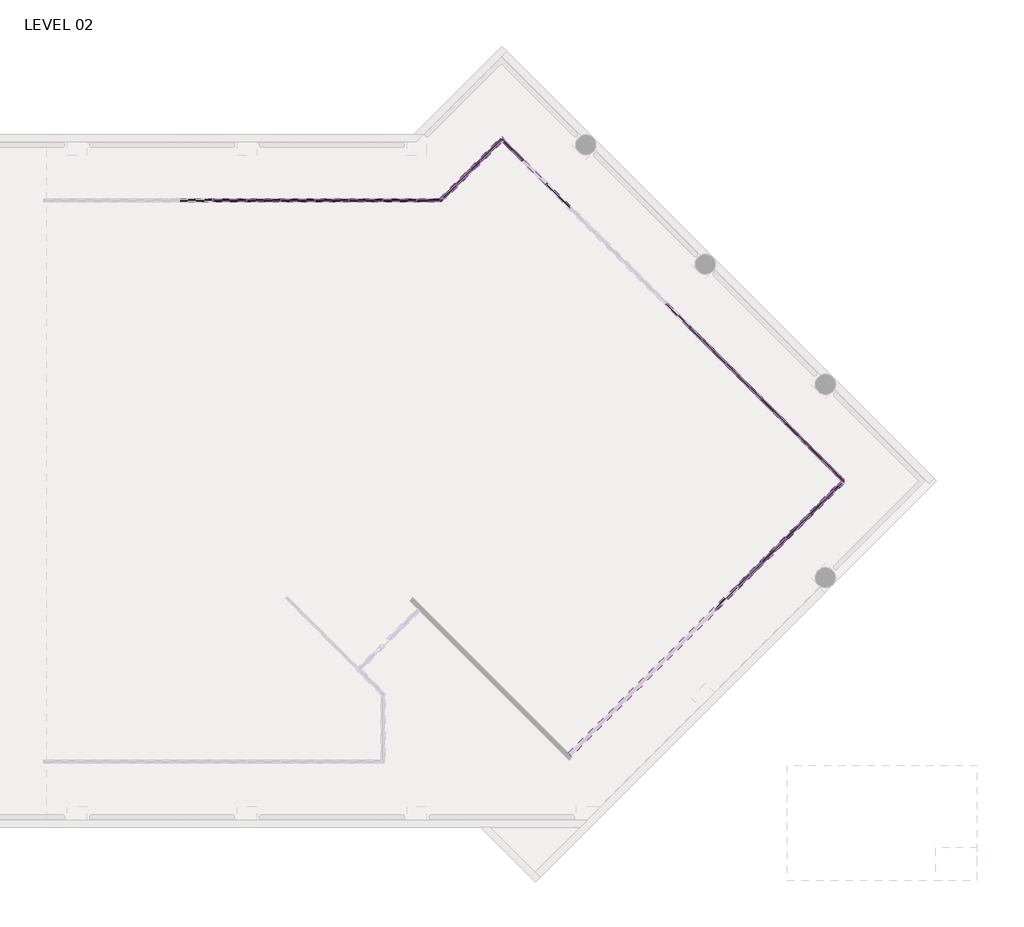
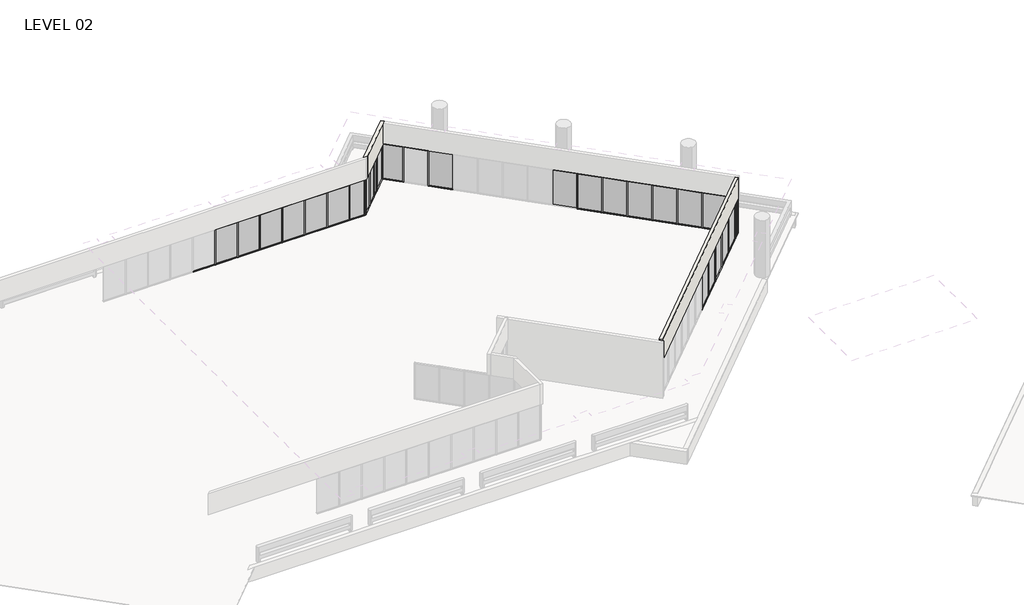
# One storey, part 15 of 19: 83 members, 27 plates, 2 walls.
"""IFC4 building model written with IfcOpenShell, lengths in millimetres."""

from ifc_helpers import new_model, si_unit, frame, origin, place, context, project, spatial, polyline, outline, extrude, faceted_brep, transform, mapped, element, save
from components import member_5247f267, member_ed5eb8ce, member_b8d22739, member_e44af9ab, member_800970d4, member_6d95746d, member_c23f844a, member_191f7a6c, member_e56bd8eb, member_e779ecf1, member_129419c3, plate_ce959b8d, plate_67294edd, plate_4e8ae714, plate_028de0fc, plate_c15461e5, plate_e2551f41, plate_50b9cd61, plate_048e4634, plate_aaac5d3d, plate_33a48981, plate_85447239

model = new_model("IFC4")

# Units and contexts
model_context = context("Model", 3, world=origin())
ifc_project = project(units=[si_unit("LENGTHUNIT", "METRE", prefix="MILLI")], contexts=[model_context])

# Site, building, storey
site = spatial("IfcSite", under=ifc_project)
building = spatial("IfcBuilding", under=site)
storey = spatial("IfcBuildingStorey", under=building, Name="LEVEL 02", Elevation=4140.2)

# Members
placement = place(None, origin())
member_shape = member_5247f267(model_context)
element("IfcMember", 1, ObjectType="Rectangular Mullion : 2\" x 4.5\" rectangular", at=placement, inside=storey, context=model_context, shape_type="MappedRepresentation", body=[
    mapped(member_shape, transform((41230.55, 117137.1023049, 4140.2), x_axis=(0.0, 0.0, -1.0), y_axis=(0.0, 1.0, 0.0), z_axis=(1.0, 0.0, 0.0))),
])
element("IfcMember", 2, ObjectType="Rectangular Mullion : 2\" x 4.5\" rectangular", at=placement, inside=storey, context=model_context, shape_type="MappedRepresentation", body=[
    mapped(member_shape, transform((39706.55, 117137.1023049, 4140.2), x_axis=(0.0, 0.0, -1.0), y_axis=(0.0, 1.0, 0.0), z_axis=(1.0, 0.0, 0.0))),
])
element("IfcMember", 3, ObjectType="Rectangular Mullion : 2\" x 4.5\" rectangular", at=placement, inside=storey, context=model_context, shape_type="MappedRepresentation", body=[
    mapped(member_shape, transform((35134.55, 117137.1023049, 4140.2), x_axis=(0.0, 0.0, -1.0), y_axis=(0.0, 1.0, 0.0), z_axis=(1.0, 0.0, 0.0))),
])
element("IfcMember", 4, ObjectType="Rectangular Mullion : 2\" x 4.5\" rectangular", at=placement, inside=storey, context=model_context, shape_type="MappedRepresentation", body=[
    mapped(member_shape, transform((33610.55, 117137.1023049, 4140.2), x_axis=(0.0, 0.0, -1.0), y_axis=(0.0, 1.0, 0.0), z_axis=(1.0, 0.0, 0.0))),
])
element("IfcMember", 5, ObjectType="Rectangular Mullion : 2\" x 4.5\" rectangular", at=placement, inside=storey, context=model_context, shape_type="MappedRepresentation", body=[
    mapped(member_shape, transform((59957.2287081, 104101.0755104, 4140.2), x_axis=(0.0, 0.0, -1.0), y_axis=(-0.7071067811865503, 0.7071067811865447, 0.0), z_axis=(0.7071067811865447, 0.7071067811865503, 0.0))),
])
element("IfcMember", 6, ObjectType="Rectangular Mullion : 2\" x 4.5\" rectangular", at=placement, inside=storey, context=model_context, shape_type="MappedRepresentation", body=[
    mapped(member_shape, transform((58879.5979736, 103023.4447759, 4140.2), x_axis=(0.0, 0.0, -1.0), y_axis=(-0.7071067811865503, 0.7071067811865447, 0.0), z_axis=(0.7071067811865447, 0.7071067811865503, 0.0))),
])
element("IfcMember", 7, ObjectType="Rectangular Mullion : 2\" x 4.5\" rectangular", at=placement, inside=storey, context=model_context, shape_type="MappedRepresentation", body=[
    mapped(member_shape, transform((55646.7353735, 99790.5821758, 4140.2), x_axis=(0.0, 0.0, -1.0), y_axis=(-0.7071067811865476, 0.7071067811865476, 0.0), z_axis=(0.7071067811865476, 0.7071067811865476, 0.0))),
])
element("IfcMember", 8, ObjectType="Rectangular Mullion : 2\" x 4.5\" rectangular", at=placement, inside=storey, context=model_context, shape_type="MappedRepresentation", body=[
    mapped(member_shape, transform((57837.8882635, 107102.019544, 4140.2), x_axis=(0.0, 0.0, -1.0), y_axis=(-0.7071067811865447, -0.7071067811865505, 0.0), z_axis=(-0.7071067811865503, 0.7071067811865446, 0.0))),
])
element("IfcMember", 9, ObjectType="Rectangular Mullion : 2\" x 4.5\" rectangular", at=placement, inside=storey, context=model_context, shape_type="MappedRepresentation", body=[
    mapped(member_shape, transform((38182.55, 117137.1023049, 4140.2), x_axis=(0.0, 0.0, -1.0), y_axis=(0.0, 1.0, 0.0), z_axis=(1.0, 0.0, 0.0))),
])
element("IfcMember", 10, ObjectType="Rectangular Mullion : 2\" x 4.5\" rectangular", at=placement, inside=storey, context=model_context, shape_type="MappedRepresentation", body=[
    mapped(member_shape, transform((36658.55, 117137.1023049, 4140.2), x_axis=(0.0, 0.0, -1.0), y_axis=(0.0, 1.0, 0.0), z_axis=(1.0, 0.0, 0.0))),
])
element("IfcMember", 11, ObjectType="Rectangular Mullion : 2\" x 4.5\" rectangular", at=placement, inside=storey, context=model_context, shape_type="MappedRepresentation", body=[
    mapped(member_shape, transform((32086.55, 117137.1023049, 4140.2), x_axis=(0.0, 0.0, -1.0), y_axis=(0.0, 1.0, 0.0), z_axis=(1.0, 0.0, 0.0))),
])
element("IfcMember", 12, ObjectType="Rectangular Mullion : 2\" x 4.5\" rectangular", at=placement, inside=storey, context=model_context, shape_type="MappedRepresentation", body=[
    mapped(member_shape, transform((56760.2932635, 108179.614544, 4140.2), x_axis=(0.0, 0.0, -1.0), y_axis=(-0.7071067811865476, -0.7071067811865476, 0.0), z_axis=(-0.7071067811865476, 0.7071067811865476, 0.0))),
])
element("IfcMember", 13, ObjectType="Rectangular Mullion : 2\" x 4.5\" rectangular", at=placement, inside=storey, context=model_context, shape_type="MappedRepresentation", body=[
    mapped(member_shape, transform((55682.6982635, 109257.209544, 4140.2), x_axis=(0.0, 0.0, -1.0), y_axis=(-0.7071067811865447, -0.7071067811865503, 0.0), z_axis=(-0.7071067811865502, 0.7071067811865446, 0.0))),
])
element("IfcMember", 14, ObjectType="Rectangular Mullion : 2\" x 4.5\" rectangular", at=placement, inside=storey, context=model_context, shape_type="MappedRepresentation", body=[
    mapped(member_shape, transform((54605.1032635, 110334.804544, 4140.2), x_axis=(0.0, 0.0, -1.0), y_axis=(-0.7071067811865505, -0.7071067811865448, 0.0), z_axis=(-0.7071067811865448, 0.7071067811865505, 0.0))),
])
element("IfcMember", 15, ObjectType="Rectangular Mullion : 2\" x 4.5\" rectangular", at=placement, inside=storey, context=model_context, shape_type="MappedRepresentation", body=[
    mapped(member_shape, transform((53527.5082635, 111412.399544, 4140.2), x_axis=(0.0, 0.0, -1.0), y_axis=(-0.7071067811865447, -0.7071067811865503, 0.0), z_axis=(-0.7071067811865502, 0.7071067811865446, 0.0))),
])
element("IfcMember", 16, ObjectType="Rectangular Mullion : 2\" x 4.5\" rectangular", at=placement, inside=storey, context=model_context, shape_type="MappedRepresentation", body=[
    mapped(member_shape, transform((58915.5189981, 106024.3888095, 4140.2), x_axis=(0.0, 0.0, -1.0), y_axis=(-0.7071067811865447, -0.7071067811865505, 0.0), z_axis=(-0.7071067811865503, 0.7071067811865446, 0.0))),
])
element("IfcMember", 17, ObjectType="Rectangular Mullion : 2\" x 4.5\" rectangular", at=placement, inside=storey, context=model_context, shape_type="MappedRepresentation", body=[
    mapped(member_shape, transform((57801.9672391, 101945.8140414, 4140.2), x_axis=(0.0, 0.0, -1.0), y_axis=(-0.7071067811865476, 0.7071067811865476, 0.0), z_axis=(0.7071067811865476, 0.7071067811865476, 0.0))),
])
element("IfcMember", 18, ObjectType="Rectangular Mullion : 2\" x 4.5\" rectangular", at=placement, inside=storey, context=model_context, shape_type="MappedRepresentation", body=[
    mapped(member_shape, transform((56724.3513063, 100868.1981086, 4140.2), x_axis=(0.0, 0.0, -1.0), y_axis=(-0.7071067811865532, 0.7071067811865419, 0.0), z_axis=(0.7071067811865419, 0.7071067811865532, 0.0))),
])
element("IfcMember", 19, ObjectType="Rectangular Mullion : 2\" x 4.5\" rectangular", at=placement, inside=storey, context=model_context, shape_type="MappedRepresentation", body=[
    mapped(member_shape, transform((39757.35, 117137.1023049, 6731.0), x_axis=(0.0, 0.0, 1.0), y_axis=(0.0, 1.0, 0.0), z_axis=(-1.0, 0.0, 0.0))),
])
element("IfcMember", 20, ObjectType="Rectangular Mullion : 2\" x 4.5\" rectangular", at=placement, inside=storey, context=model_context, shape_type="MappedRepresentation", body=[
    mapped(member_shape, transform((35185.35, 117137.1023049, 6731.0), x_axis=(0.0, 0.0, 1.0), y_axis=(0.0, 1.0, 0.0), z_axis=(-1.0, 0.0, 0.0))),
])
element("IfcMember", 21, ObjectType="Rectangular Mullion : 2\" x 4.5\" rectangular", at=placement, inside=storey, context=model_context, shape_type="MappedRepresentation", body=[
    mapped(member_shape, transform((33661.35, 117137.1023049, 6731.0), x_axis=(0.0, 0.0, 1.0), y_axis=(0.0, 1.0, 0.0), z_axis=(-1.0, 0.0, 0.0))),
])
element("IfcMember", 22, ObjectType="Rectangular Mullion : 2\" x 4.5\" rectangular", at=placement, inside=storey, context=model_context, shape_type="MappedRepresentation", body=[
    mapped(member_shape, transform((47055.7751901, 117884.1326174, 6731.0), x_axis=(0.0, 0.0, 1.0), y_axis=(-0.7071067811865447, -0.7071067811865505, 0.0), z_axis=(0.7071067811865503, -0.7071067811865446, 0.0))),
])
element("IfcMember", 23, ObjectType="Rectangular Mullion : 2\" x 4.5\" rectangular", at=placement, inside=storey, context=model_context, shape_type="MappedRepresentation", body=[
    mapped(member_shape, transform((58915.5189981, 103059.3658004, 6731.0), x_axis=(0.0, 0.0, 1.0), y_axis=(-0.7071067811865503, 0.7071067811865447, 0.0), z_axis=(-0.7071067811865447, -0.7071067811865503, 0.0))),
])
element("IfcMember", 24, ObjectType="Rectangular Mullion : 2\" x 4.5\" rectangular", at=placement, inside=storey, context=model_context, shape_type="MappedRepresentation", body=[
    mapped(member_shape, transform((55682.6563979, 99826.5032003, 6731.0), x_axis=(0.0, 0.0, 1.0), y_axis=(-0.7071067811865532, 0.7071067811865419, 0.0), z_axis=(-0.7071067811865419, -0.7071067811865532, 0.0))),
])
element("IfcMember", 25, ObjectType="Rectangular Mullion : 2\" x 4.5\" rectangular", at=placement, inside=storey, context=model_context, shape_type="MappedRepresentation", body=[
    mapped(member_shape, transform((57801.9672391, 107137.9405685, 6731.0), x_axis=(0.0, 0.0, 1.0), y_axis=(-0.7071067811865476, -0.7071067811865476, 0.0), z_axis=(0.7071067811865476, -0.7071067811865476, 0.0))),
])
element("IfcMember", 26, ObjectType="Rectangular Mullion : 2\" x 4.5\" rectangular", at=placement, inside=storey, context=model_context, shape_type="MappedRepresentation", body=[
    mapped(member_shape, transform((38233.35, 117137.1023049, 6731.0), x_axis=(0.0, 0.0, 1.0), y_axis=(0.0, 1.0, 0.0), z_axis=(-1.0, 0.0, 0.0))),
])
element("IfcMember", 27, ObjectType="Rectangular Mullion : 2\" x 4.5\" rectangular", at=placement, inside=storey, context=model_context, shape_type="MappedRepresentation", body=[
    mapped(member_shape, transform((36709.35, 117137.1023049, 6731.0), x_axis=(0.0, 0.0, 1.0), y_axis=(0.0, 1.0, 0.0), z_axis=(-1.0, 0.0, 0.0))),
])
element("IfcMember", 28, ObjectType="Rectangular Mullion : 2\" x 4.5\" rectangular", at=placement, inside=storey, context=model_context, shape_type="MappedRepresentation", body=[
    mapped(member_shape, transform((32137.35, 117137.1023049, 6731.0), x_axis=(0.0, 0.0, 1.0), y_axis=(0.0, 1.0, 0.0), z_axis=(-1.0, 0.0, 0.0))),
])
element("IfcMember", 29, ObjectType="Rectangular Mullion : 2\" x 4.5\" rectangular", at=placement, inside=storey, context=model_context, shape_type="MappedRepresentation", body=[
    mapped(member_shape, transform((56724.3722391, 108215.5355685, 6731.0), x_axis=(0.0, 0.0, 1.0), y_axis=(-0.7071067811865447, -0.7071067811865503, 0.0), z_axis=(0.7071067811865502, -0.7071067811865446, 0.0))),
])
element("IfcMember", 30, ObjectType="Rectangular Mullion : 2\" x 4.5\" rectangular", at=placement, inside=storey, context=model_context, shape_type="MappedRepresentation", body=[
    mapped(member_shape, transform((55646.7772391, 109293.1305685, 6731.0), x_axis=(0.0, 0.0, 1.0), y_axis=(-0.7071067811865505, -0.7071067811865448, 0.0), z_axis=(0.7071067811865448, -0.7071067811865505, 0.0))),
])
element("IfcMember", 31, ObjectType="Rectangular Mullion : 2\" x 4.5\" rectangular", at=placement, inside=storey, context=model_context, shape_type="MappedRepresentation", body=[
    mapped(member_shape, transform((54569.1822391, 110370.7255685, 6731.0), x_axis=(0.0, 0.0, 1.0), y_axis=(-0.7071067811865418, -0.7071067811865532, 0.0), z_axis=(0.7071067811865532, -0.7071067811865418, 0.0))),
])
element("IfcMember", 32, ObjectType="Rectangular Mullion : 2\" x 4.5\" rectangular", at=placement, inside=storey, context=model_context, shape_type="MappedRepresentation", body=[
    mapped(member_shape, transform((53491.5872391, 111448.3205685, 6731.0), x_axis=(0.0, 0.0, 1.0), y_axis=(-0.7071067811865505, -0.7071067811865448, 0.0), z_axis=(0.7071067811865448, -0.7071067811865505, 0.0))),
])
element("IfcMember", 33, ObjectType="Rectangular Mullion : 2\" x 4.5\" rectangular", at=placement, inside=storey, context=model_context, shape_type="MappedRepresentation", body=[
    mapped(member_shape, transform((58879.5979736, 106060.3098339, 6731.0), x_axis=(0.0, 0.0, 1.0), y_axis=(-0.7071067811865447, -0.7071067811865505, 0.0), z_axis=(0.7071067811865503, -0.7071067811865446, 0.0))),
])
element("IfcMember", 34, ObjectType="Rectangular Mullion : 2\" x 4.5\" rectangular", at=placement, inside=storey, context=model_context, shape_type="MappedRepresentation", body=[
    mapped(member_shape, transform((59957.2287081, 104982.6790994, 6731.0), x_axis=(0.0, 0.0, 1.0), y_axis=(-0.7071067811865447, -0.7071067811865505, 0.0), z_axis=(0.7071067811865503, -0.7071067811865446, 0.0))),
])
element("IfcMember", 35, ObjectType="Rectangular Mullion : 2\" x 4.5\" rectangular", at=placement, inside=storey, context=model_context, shape_type="MappedRepresentation", body=[
    mapped(member_shape, transform((57837.8882635, 101981.7350659, 6731.0), x_axis=(0.0, 0.0, 1.0), y_axis=(-0.7071067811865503, 0.7071067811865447, 0.0), z_axis=(-0.7071067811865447, -0.7071067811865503, 0.0))),
])
element("IfcMember", 36, ObjectType="Rectangular Mullion : 2\" x 4.5\" rectangular", at=placement, inside=storey, context=model_context, shape_type="MappedRepresentation", body=[
    mapped(member_shape, transform((56760.2723307, 100904.1191331, 6731.0), x_axis=(0.0, 0.0, 1.0), y_axis=(-0.7071067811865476, 0.7071067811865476, 0.0), z_axis=(-0.7071067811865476, -0.7071067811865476, 0.0))),
])
member_2_shape = member_ed5eb8ce(model_context)
element("IfcMember", 37, ObjectType="Rectangular Mullion : 2\" x 4.5\" rectangular", at=placement, inside=storey, context=model_context, shape_type="MappedRepresentation", body=[
    mapped(member_2_shape, transform((41281.35, 117137.1023049, 6731.0), x_axis=(0.0, 0.0, 1.0), y_axis=(0.0, 1.0, 0.0), z_axis=(-1.0, 0.0, 0.0))),
])
element("IfcMember", 38, ObjectType="Rectangular Mullion : 2\" x 4.5\" rectangular", at=placement, inside=storey, context=model_context, shape_type="MappedRepresentation", body=[
    mapped(member_2_shape, transform((42278.2944974, 117137.1023049, 4140.2), x_axis=(0.0, 0.0, -1.0), y_axis=(0.0, 1.0, 0.0), z_axis=(1.0, 0.0, 0.0))),
])
member_3_shape = member_b8d22739(model_context)
element("IfcMember", 39, ObjectType="Rectangular Mullion : 2\" x 4.5\" rectangular", at=placement, inside=storey, context=model_context, shape_type="MappedRepresentation", body=[
    mapped(member_3_shape, transform((60362.1094781, 104505.9562804, 4140.2), x_axis=(0.0, 0.0, -1.0), y_axis=(-0.7071067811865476, 0.7071067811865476, 0.0), z_axis=(0.7071067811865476, 0.7071067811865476, 0.0))),
])
element("IfcMember", 40, ObjectType="Rectangular Mullion : 2\" x 4.5\" rectangular", at=placement, inside=storey, context=model_context, shape_type="MappedRepresentation", body=[
    mapped(member_3_shape, transform((59993.1497326, 104946.7580749, 4140.2), x_axis=(0.0, 0.0, -1.0), y_axis=(-0.7071067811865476, -0.7071067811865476, 0.0), z_axis=(-0.7071067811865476, 0.7071067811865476, 0.0))),
])
element("IfcMember", 41, ObjectType="Rectangular Mullion : 2\" x 4.5\" rectangular", at=placement, inside=storey, context=model_context, shape_type="MappedRepresentation", body=[
    mapped(member_3_shape, transform((60362.1094781, 104577.7983294, 6731.0), x_axis=(0.0, 0.0, 1.0), y_axis=(-0.7071067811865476, -0.7071067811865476, 0.0), z_axis=(0.7071067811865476, -0.7071067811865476, 0.0))),
])
element("IfcMember", 42, ObjectType="Rectangular Mullion : 2\" x 4.5\" rectangular", at=placement, inside=storey, context=model_context, shape_type="MappedRepresentation", body=[
    mapped(member_3_shape, transform((59993.1497326, 104136.9965349, 6731.0), x_axis=(0.0, 0.0, 1.0), y_axis=(-0.7071067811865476, 0.7071067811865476, 0.0), z_axis=(-0.7071067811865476, -0.7071067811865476, 0.0))),
])
member_4_shape = member_e44af9ab(model_context)
element("IfcMember", 43, ObjectType="Rectangular Mullion : 2\" x 4.5\" rectangular", at=placement, inside=storey, context=model_context, shape_type="MappedRepresentation", body=[
    mapped(member_4_shape, transform((41255.95, 117137.1023049, 4140.2), x_axis=(-1.0, 0.0, 0.0), y_axis=(0.0, 1.0, 0.0), z_axis=(0.0, 0.0, -1.0))),
])
element("IfcMember", 44, ObjectType="Rectangular Mullion : 2\" x 4.5\" rectangular", at=placement, inside=storey, context=model_context, shape_type="MappedRepresentation", body=[
    mapped(member_4_shape, transform((39731.95, 117137.1023049, 4140.2), x_axis=(-1.0, 0.0, 0.0), y_axis=(0.0, 1.0, 0.0), z_axis=(0.0, 0.0, -1.0))),
])
element("IfcMember", 45, ObjectType="Rectangular Mullion : 2\" x 4.5\" rectangular", at=placement, inside=storey, context=model_context, shape_type="MappedRepresentation", body=[
    mapped(member_4_shape, transform((35159.95, 117137.1023049, 4140.2), x_axis=(-1.0, 0.0, 0.0), y_axis=(0.0, 1.0, 0.0), z_axis=(0.0, 0.0, -1.0))),
])
element("IfcMember", 46, ObjectType="Rectangular Mullion : 2\" x 4.5\" rectangular", at=placement, inside=storey, context=model_context, shape_type="MappedRepresentation", body=[
    mapped(member_4_shape, transform((43037.1222487, 117845.1300562, 4140.2), x_axis=(0.7071067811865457, 0.7071067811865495, 0.0), y_axis=(0.7071067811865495, -0.7071067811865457, 0.0), z_axis=(0.0, 0.0, -1.0))),
])
element("IfcMember", 47, ObjectType="Rectangular Mullion : 2\" x 4.5\" rectangular", at=placement, inside=storey, context=model_context, shape_type="MappedRepresentation", body=[
    mapped(member_4_shape, transform((33635.95, 117137.1023049, 4140.2), x_axis=(-1.0, 0.0, 0.0), y_axis=(0.0, 1.0, 0.0), z_axis=(0.0, 0.0, -1.0))),
])
element("IfcMember", 48, ObjectType="Rectangular Mullion : 2\" x 4.5\" rectangular", at=placement, inside=storey, context=model_context, shape_type="MappedRepresentation", body=[
    mapped(member_4_shape, transform((45996.1049678, 118943.8028397, 4140.2), x_axis=(0.7071067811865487, -0.7071067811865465, 0.0), y_axis=(-0.7071067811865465, -0.7071067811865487, 0.0), z_axis=(0.0, 0.0, -1.0))),
])
element("IfcMember", 49, ObjectType="Rectangular Mullion : 2\" x 4.5\" rectangular", at=placement, inside=storey, context=model_context, shape_type="MappedRepresentation", body=[
    mapped(member_4_shape, transform((47073.7357023, 117866.1721052, 4140.2), x_axis=(0.7071067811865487, -0.7071067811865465, 0.0), y_axis=(-0.7071067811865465, -0.7071067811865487, 0.0), z_axis=(0.0, 0.0, -1.0))),
])
element("IfcMember", 50, ObjectType="Rectangular Mullion : 2\" x 4.5\" rectangular", at=placement, inside=storey, context=model_context, shape_type="MappedRepresentation", body=[
    mapped(member_4_shape, transform((59975.1892204, 104119.0360227, 4140.2), x_axis=(-0.7071067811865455, -0.7071067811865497, 0.0), y_axis=(-0.7071067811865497, 0.7071067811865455, 0.0), z_axis=(0.0, 0.0, -1.0))),
])
element("IfcMember", 51, ObjectType="Rectangular Mullion : 2\" x 4.5\" rectangular", at=placement, inside=storey, context=model_context, shape_type="MappedRepresentation", body=[
    mapped(member_4_shape, transform((58897.5584858, 103041.4052881, 4140.2), x_axis=(-0.7071067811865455, -0.7071067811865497, 0.0), y_axis=(-0.7071067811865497, 0.7071067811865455, 0.0), z_axis=(0.0, 0.0, -1.0))),
])
element("IfcMember", 52, ObjectType="Rectangular Mullion : 2\" x 4.5\" rectangular", at=placement, inside=storey, context=model_context, shape_type="MappedRepresentation", body=[
    mapped(member_4_shape, transform((55664.6958857, 99808.542688, 4140.2), x_axis=(-0.7071067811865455, -0.7071067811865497, 0.0), y_axis=(-0.7071067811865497, 0.7071067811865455, 0.0), z_axis=(0.0, 0.0, -1.0))),
])
element("IfcMember", 53, ObjectType="Rectangular Mullion : 2\" x 4.5\" rectangular", at=placement, inside=storey, context=model_context, shape_type="MappedRepresentation", body=[
    mapped(member_4_shape, transform((57819.9277513, 107119.9800562, 4140.2), x_axis=(0.7071067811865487, -0.7071067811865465, 0.0), y_axis=(-0.7071067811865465, -0.7071067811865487, 0.0), z_axis=(0.0, 0.0, -1.0))),
])
element("IfcMember", 54, ObjectType="Rectangular Mullion : 2\" x 4.5\" rectangular", at=placement, inside=storey, context=model_context, shape_type="MappedRepresentation", body=[
    mapped(member_4_shape, transform((44114.7529832, 118922.7607908, 4140.2), x_axis=(0.7071067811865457, 0.7071067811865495, 0.0), y_axis=(0.7071067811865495, -0.7071067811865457, 0.0), z_axis=(0.0, 0.0, -1.0))),
])
element("IfcMember", 55, ObjectType="Rectangular Mullion : 2\" x 4.5\" rectangular", at=placement, inside=storey, context=model_context, shape_type="MappedRepresentation", body=[
    mapped(member_4_shape, transform((38207.95, 117137.1023049, 4140.2), x_axis=(-1.0, 0.0, 0.0), y_axis=(0.0, 1.0, 0.0), z_axis=(0.0, 0.0, -1.0))),
])
element("IfcMember", 56, ObjectType="Rectangular Mullion : 2\" x 4.5\" rectangular", at=placement, inside=storey, context=model_context, shape_type="MappedRepresentation", body=[
    mapped(member_4_shape, transform((36683.95, 117137.1023049, 4140.2), x_axis=(-1.0, 0.0, 0.0), y_axis=(0.0, 1.0, 0.0), z_axis=(0.0, 0.0, -1.0))),
])
element("IfcMember", 57, ObjectType="Rectangular Mullion : 2\" x 4.5\" rectangular", at=placement, inside=storey, context=model_context, shape_type="MappedRepresentation", body=[
    mapped(member_4_shape, transform((32111.95, 117137.1023049, 4140.2), x_axis=(-1.0, 0.0, 0.0), y_axis=(0.0, 1.0, 0.0), z_axis=(0.0, 0.0, -1.0))),
])
element("IfcMember", 58, ObjectType="Rectangular Mullion : 2\" x 4.5\" rectangular", at=placement, inside=storey, context=model_context, shape_type="MappedRepresentation", body=[
    mapped(member_4_shape, transform((56742.3327513, 108197.5750562, 4140.2), x_axis=(0.7071067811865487, -0.7071067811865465, 0.0), y_axis=(-0.7071067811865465, -0.7071067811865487, 0.0), z_axis=(0.0, 0.0, -1.0))),
])
element("IfcMember", 59, ObjectType="Rectangular Mullion : 2\" x 4.5\" rectangular", at=placement, inside=storey, context=model_context, shape_type="MappedRepresentation", body=[
    mapped(member_4_shape, transform((55664.7377513, 109275.1700562, 4140.2), x_axis=(0.7071067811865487, -0.7071067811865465, 0.0), y_axis=(-0.7071067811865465, -0.7071067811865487, 0.0), z_axis=(0.0, 0.0, -1.0))),
])
element("IfcMember", 60, ObjectType="Rectangular Mullion : 2\" x 4.5\" rectangular", at=placement, inside=storey, context=model_context, shape_type="MappedRepresentation", body=[
    mapped(member_4_shape, transform((54587.1427513, 110352.7650562, 4140.2), x_axis=(0.7071067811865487, -0.7071067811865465, 0.0), y_axis=(-0.7071067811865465, -0.7071067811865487, 0.0), z_axis=(0.0, 0.0, -1.0))),
])
element("IfcMember", 61, ObjectType="Rectangular Mullion : 2\" x 4.5\" rectangular", at=placement, inside=storey, context=model_context, shape_type="MappedRepresentation", body=[
    mapped(member_4_shape, transform((53509.5477513, 111430.3600562, 4140.2), x_axis=(0.7071067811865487, -0.7071067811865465, 0.0), y_axis=(-0.7071067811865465, -0.7071067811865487, 0.0), z_axis=(0.0, 0.0, -1.0))),
])
element("IfcMember", 62, ObjectType="Rectangular Mullion : 2\" x 4.5\" rectangular", at=placement, inside=storey, context=model_context, shape_type="MappedRepresentation", body=[
    mapped(member_4_shape, transform((58897.5584858, 106042.3493217, 4140.2), x_axis=(0.7071067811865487, -0.7071067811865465, 0.0), y_axis=(-0.7071067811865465, -0.7071067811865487, 0.0), z_axis=(0.0, 0.0, -1.0))),
])
element("IfcMember", 63, ObjectType="Rectangular Mullion : 2\" x 4.5\" rectangular", at=placement, inside=storey, context=model_context, shape_type="MappedRepresentation", body=[
    mapped(member_4_shape, transform((59975.1892204, 104964.7185872, 4140.2), x_axis=(0.7071067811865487, -0.7071067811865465, 0.0), y_axis=(-0.7071067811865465, -0.7071067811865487, 0.0), z_axis=(0.0, 0.0, -1.0))),
])
element("IfcMember", 64, ObjectType="Rectangular Mullion : 2\" x 4.5\" rectangular", at=placement, inside=storey, context=model_context, shape_type="MappedRepresentation", body=[
    mapped(member_4_shape, transform((57819.9277513, 101963.7745536, 4140.2), x_axis=(-0.7071067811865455, -0.7071067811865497, 0.0), y_axis=(-0.7071067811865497, 0.7071067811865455, 0.0), z_axis=(0.0, 0.0, -1.0))),
])
element("IfcMember", 65, ObjectType="Rectangular Mullion : 2\" x 4.5\" rectangular", at=placement, inside=storey, context=model_context, shape_type="MappedRepresentation", body=[
    mapped(member_4_shape, transform((56742.3118185, 100886.1586208, 4140.2), x_axis=(-0.7071067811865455, -0.7071067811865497, 0.0), y_axis=(-0.7071067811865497, 0.7071067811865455, 0.0), z_axis=(0.0, 0.0, -1.0))),
])
member_5_shape = member_800970d4(model_context)
element("IfcMember", 66, ObjectType="Rectangular Mullion : 2\" x 4.5\" rectangular", at=placement, inside=storey, context=model_context, shape_type="MappedRepresentation", body=[
    mapped(member_5_shape, transform((45065.95, 119873.9578075, 4140.2), x_axis=(0.7071067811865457, 0.7071067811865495, 0.0), y_axis=(0.7071067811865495, -0.7071067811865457, 0.0), z_axis=(0.0, 0.0, -1.0))),
])
element("IfcMember", 67, ObjectType="Rectangular Mullion : 2\" x 4.5\" rectangular", at=placement, inside=storey, context=model_context, shape_type="MappedRepresentation", body=[
    mapped(member_5_shape, transform((60398.0305026, 104541.8773049, 4140.2), x_axis=(0.7071067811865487, -0.7071067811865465, 0.0), y_axis=(-0.7071067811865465, -0.7071067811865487, 0.0), z_axis=(0.0, 0.0, -1.0))),
])
element("IfcMember", 68, ObjectType="Rectangular Mullion : 2\" x 4.5\" rectangular", at=placement, inside=storey, context=model_context, shape_type="MappedRepresentation", body=[
    mapped(member_5_shape, transform((42329.0944974, 117137.1023049, 6731.0), x_axis=(1.0, 0.0, 0.0), y_axis=(0.0, 1.0, 0.0), z_axis=(0.0, 0.0, 1.0))),
])
element("IfcMember", 69, ObjectType="Rectangular Mullion : 2\" x 4.5\" rectangular", at=placement, inside=storey, context=model_context, shape_type="MappedRepresentation", body=[
    mapped(member_5_shape, transform((42329.0944974, 117137.1023049, 6731.0), x_axis=(-0.7071067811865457, -0.7071067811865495, 0.0), y_axis=(0.7071067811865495, -0.7071067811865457, 0.0), z_axis=(0.0, 0.0, 1.0))),
])
element("IfcMember", 70, ObjectType="Rectangular Mullion : 2\" x 4.5\" rectangular", at=placement, inside=storey, context=model_context, shape_type="MappedRepresentation", body=[
    mapped(member_5_shape, transform((45065.95, 119873.9578075, 6731.0), x_axis=(-0.7071067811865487, 0.7071067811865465, 0.0), y_axis=(-0.7071067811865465, -0.7071067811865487, 0.0), z_axis=(0.0, 0.0, 1.0))),
])
element("IfcMember", 71, ObjectType="Rectangular Mullion : 2\" x 4.5\" rectangular", at=placement, inside=storey, context=model_context, shape_type="MappedRepresentation", body=[
    mapped(member_5_shape, transform((60398.0305026, 104541.8773049, 6731.0), x_axis=(0.7071067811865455, 0.7071067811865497, 0.0), y_axis=(-0.7071067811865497, 0.7071067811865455, 0.0), z_axis=(0.0, 0.0, 1.0))),
])
member_6_shape = member_6d95746d(model_context)
element("IfcMember", 72, ObjectType="Rectangular Mullion : 2\" x 4.5\" rectangular", at=placement, inside=storey, context=model_context, shape_type="MappedRepresentation", body=[
    mapped(member_6_shape, transform((45978.1444556, 118961.763352, 6731.0), x_axis=(0.0, 0.0, 1.0), y_axis=(-0.7071067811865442, -0.7071067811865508, 0.0), z_axis=(0.7071067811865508, -0.7071067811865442, 0.0))),
])
element("IfcMember", 73, ObjectType="Rectangular Mullion : 2\" x 4.5\" rectangular", at=placement, inside=storey, context=model_context, shape_type="MappedRepresentation", body=[
    mapped(member_6_shape, transform((45101.8710245, 119838.036783, 4140.2), x_axis=(0.0, 0.0, -1.0), y_axis=(-0.7071067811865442, -0.7071067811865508, 0.0), z_axis=(-0.7071067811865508, 0.7071067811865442, 0.0))),
])
member_7_shape = member_c23f844a(model_context)
element("IfcMember", 74, ObjectType="Rectangular Mullion : 2\" x 4.5\" rectangular", at=placement, inside=storey, context=model_context, shape_type="MappedRepresentation", body=[
    mapped(member_7_shape, transform((47091.6962146, 117848.211593, 4140.2), x_axis=(0.0, 0.0, -1.0), y_axis=(-0.7071067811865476, -0.7071067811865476, 0.0), z_axis=(-0.7071067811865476, 0.7071067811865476, 0.0))),
])
member_8_shape = member_191f7a6c(model_context)
element("IfcMember", 75, ObjectType="Rectangular Mullion : 2\" x 4.5\" rectangular", at=placement, inside=storey, context=model_context, shape_type="MappedRepresentation", body=[
    mapped(member_8_shape, transform((43019.1617365, 117827.169544, 6731.0), x_axis=(0.0, 0.0, 1.0), y_axis=(0.7071067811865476, -0.7071067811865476, 0.0), z_axis=(0.7071067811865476, 0.7071067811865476, 0.0))),
])
element("IfcMember", 76, ObjectType="Rectangular Mullion : 2\" x 4.5\" rectangular", at=placement, inside=storey, context=model_context, shape_type="MappedRepresentation", body=[
    mapped(member_8_shape, transform((42365.0155219, 117173.0233294, 4140.2), x_axis=(0.0, 0.0, -1.0), y_axis=(0.7071067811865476, -0.7071067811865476, 0.0), z_axis=(-0.7071067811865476, -0.7071067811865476, 0.0))),
])
member_9_shape = member_e56bd8eb(model_context)
element("IfcMember", 77, ObjectType="Rectangular Mullion : 2\" x 4.5\" rectangular", at=placement, inside=storey, context=model_context, shape_type="MappedRepresentation", body=[
    mapped(member_9_shape, transform((45030.0289755, 119838.036783, 6731.0), x_axis=(0.0, 0.0, 1.0), y_axis=(0.7071067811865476, -0.7071067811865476, 0.0), z_axis=(0.7071067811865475, 0.7071067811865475, 0.0))),
])
element("IfcMember", 78, ObjectType="Rectangular Mullion : 2\" x 4.5\" rectangular", at=placement, inside=storey, context=model_context, shape_type="MappedRepresentation", body=[
    mapped(member_9_shape, transform((44132.7134955, 118940.721303, 4140.2), x_axis=(0.0, 0.0, -1.0), y_axis=(0.7071067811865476, -0.7071067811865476, 0.0), z_axis=(-0.7071067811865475, -0.7071067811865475, 0.0))),
])
element("IfcMember", 79, ObjectType="Rectangular Mullion : 2\" x 4.5\" rectangular", at=placement, inside=storey, context=model_context, shape_type="MappedRepresentation", body=[
    mapped(member_4_shape, transform((43697.5222487, 118505.5300562, 4140.2), x_axis=(0.7071067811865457, 0.7071067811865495, 0.0), y_axis=(0.7071067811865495, -0.7071067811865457, 0.0), z_axis=(0.0, 0.0, -1.0))),
])
member_10_shape = member_e779ecf1(model_context)
element("IfcMember", 80, ObjectType="Rectangular Mullion : 2\" x 4.5\" rectangular", at=placement, inside=storey, context=model_context, shape_type="MappedRepresentation", body=[
    mapped(member_10_shape, transform((43055.0827609, 117863.0905685, 4140.2), x_axis=(0.0, 0.0, -1.0), y_axis=(0.7071067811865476, -0.7071067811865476, 0.0), z_axis=(-0.7071067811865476, -0.7071067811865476, 0.0))),
])
member_11_shape = member_129419c3(model_context)
element("IfcMember", 81, ObjectType="Rectangular Mullion : 2\" x 4.5\" rectangular", at=placement, inside=storey, context=model_context, shape_type="MappedRepresentation", body=[
    mapped(member_11_shape, transform((44096.792471, 118904.8002785, 6731.0), x_axis=(0.0, 0.0, 1.0), y_axis=(0.7071067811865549, -0.7071067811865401, 0.0), z_axis=(0.7071067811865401, 0.7071067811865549, 0.0))),
])
element("IfcMember", 82, ObjectType="Rectangular Mullion : 2\" x 4.5\" rectangular", at=placement, inside=storey, context=model_context, shape_type="MappedRepresentation", body=[
    mapped(member_11_shape, transform((43715.4827609, 118523.4905685, 4140.2), x_axis=(0.0, 0.0, -1.0), y_axis=(0.7071067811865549, -0.7071067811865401, 0.0), z_axis=(-0.7071067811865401, -0.7071067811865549, 0.0))),
])
element("IfcMember", 83, ObjectType="Rectangular Mullion : 2\" x 4.5\" rectangular", at=placement, inside=storey, context=model_context, shape_type="MappedRepresentation", body=[
    mapped(member_10_shape, transform((43679.5617365, 118487.569544, 6731.0), x_axis=(0.0, 0.0, 1.0), y_axis=(0.7071067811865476, -0.7071067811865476, 0.0), z_axis=(0.7071067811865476, 0.7071067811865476, 0.0))),
])

# Plates
plate_shape = plate_ce959b8d(model_context)
element("IfcPlate", 84, ObjectType="System Panel : 1/4\" Glass", at=placement, inside=storey, context=model_context, shape_type="MappedRepresentation", body=[
    mapped(plate_shape, transform((41779.8222487, 117137.1023049, 4191.0), x_axis=(-1.0, 0.0, 0.0), y_axis=(0.0, -1.0, 0.0), z_axis=(0.0, 0.0, 1.0))),
])
plate_2_shape = plate_67294edd(model_context)
element("IfcPlate", 85, ObjectType="System Panel : 1/4\" Glass", at=placement, inside=storey, context=model_context, shape_type="MappedRepresentation", body=[
    mapped(plate_2_shape, transform((40493.95, 117137.1023049, 4191.0), x_axis=(-1.0, 0.0, 0.0), y_axis=(0.0, -1.0, 0.0), z_axis=(0.0, 0.0, 1.0))),
])
element("IfcPlate", 86, ObjectType="System Panel : 1/4\" Glass", at=placement, inside=storey, context=model_context, shape_type="MappedRepresentation", body=[
    mapped(plate_2_shape, transform((38969.95, 117137.1023049, 4191.0), x_axis=(-1.0, 0.0, 0.0), y_axis=(0.0, -1.0, 0.0), z_axis=(0.0, 0.0, 1.0))),
])
element("IfcPlate", 87, ObjectType="System Panel : 1/4\" Glass", at=placement, inside=storey, context=model_context, shape_type="MappedRepresentation", body=[
    mapped(plate_2_shape, transform((34397.95, 117137.1023049, 4191.0), x_axis=(-1.0, 0.0, 0.0), y_axis=(0.0, -1.0, 0.0), z_axis=(0.0, 0.0, 1.0))),
])
element("IfcPlate", 88, ObjectType="System Panel : 1/4\" Glass", at=placement, inside=storey, context=model_context, shape_type="MappedRepresentation", body=[
    mapped(plate_2_shape, transform((32873.95, 117137.1023049, 4191.0), x_axis=(-1.0, 0.0, 0.0), y_axis=(0.0, -1.0, 0.0), z_axis=(0.0, 0.0, 1.0))),
])
element("IfcPlate", 89, ObjectType="System Panel : 1/4\" Glass", at=placement, inside=storey, context=model_context, shape_type="MappedRepresentation", body=[
    mapped(plate_2_shape, transform((59436.3738531, 103580.2206554, 4191.0), x_axis=(-0.7071067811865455, -0.7071067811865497, 0.0), y_axis=(0.7071067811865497, -0.7071067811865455, 0.0), z_axis=(0.0, 0.0, 1.0))),
])
element("IfcPlate", 90, ObjectType="System Panel : 1/4\" Glass", at=placement, inside=storey, context=model_context, shape_type="MappedRepresentation", body=[
    mapped(plate_2_shape, transform((58358.7431186, 102502.5899209, 4191.0), x_axis=(-0.7071067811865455, -0.7071067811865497, 0.0), y_axis=(0.7071067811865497, -0.7071067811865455, 0.0), z_axis=(0.0, 0.0, 1.0))),
])
element("IfcPlate", 91, ObjectType="System Panel : 1/4\" Glass", at=placement, inside=storey, context=model_context, shape_type="MappedRepresentation", body=[
    mapped(plate_2_shape, transform((58358.7431186, 106581.164689, 4191.0), x_axis=(0.7071067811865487, -0.7071067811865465, 0.0), y_axis=(0.7071067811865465, 0.7071067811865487, 0.0), z_axis=(0.0, 0.0, 1.0))),
])
element("IfcPlate", 92, ObjectType="System Panel : 1/4\" Glass", at=placement, inside=storey, context=model_context, shape_type="MappedRepresentation", body=[
    mapped(plate_2_shape, transform((37445.95, 117137.1023049, 4191.0), x_axis=(-1.0, 0.0, 0.0), y_axis=(0.0, -1.0, 0.0), z_axis=(0.0, 0.0, 1.0))),
])
element("IfcPlate", 93, ObjectType="System Panel : 1/4\" Glass", at=placement, inside=storey, context=model_context, shape_type="MappedRepresentation", body=[
    mapped(plate_2_shape, transform((35921.95, 117137.1023049, 4191.0), x_axis=(-1.0, 0.0, 0.0), y_axis=(0.0, -1.0, 0.0), z_axis=(0.0, 0.0, 1.0))),
])
element("IfcPlate", 94, ObjectType="System Panel : 1/4\" Glass", at=placement, inside=storey, context=model_context, shape_type="MappedRepresentation", body=[
    mapped(plate_2_shape, transform((59436.3738531, 105503.5339544, 4191.0), x_axis=(0.7071067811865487, -0.7071067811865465, 0.0), y_axis=(0.7071067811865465, 0.7071067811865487, 0.0), z_axis=(0.0, 0.0, 1.0))),
])
plate_3_shape = plate_4e8ae714(model_context)
element("IfcPlate", 95, ObjectType="System Panel : 1/4\" Glass", at=placement, inside=storey, context=model_context, shape_type="MappedRepresentation", body=[
    mapped(plate_3_shape, transform((60177.6296054, 104321.4764077, 4191.0), x_axis=(-0.7071067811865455, -0.7071067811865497, 0.0), y_axis=(0.7071067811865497, -0.7071067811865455, 0.0), z_axis=(0.0, 0.0, 1.0))),
])
element("IfcPlate", 96, ObjectType="System Panel : 1/4\" Glass", at=placement, inside=storey, context=model_context, shape_type="MappedRepresentation", body=[
    mapped(plate_3_shape, transform((60177.6296054, 104762.2782022, 4191.0), x_axis=(0.7071067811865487, -0.7071067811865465, 0.0), y_axis=(0.7071067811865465, 0.7071067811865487, 0.0), z_axis=(0.0, 0.0, 1.0))),
])
plate_4_shape = plate_028de0fc(model_context)
element("IfcPlate", 97, ObjectType="System Panel : 1/4\" Glass", at=placement, inside=storey, context=model_context, shape_type="MappedRepresentation", body=[
    mapped(plate_4_shape, transform((42692.0886292, 117500.0964367, 4191.0), x_axis=(0.7071067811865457, 0.7071067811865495, 0.0), y_axis=(-0.7071067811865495, 0.7071067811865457, 0.0), z_axis=(0.0, 0.0, 1.0))),
])
plate_5_shape = plate_c15461e5(model_context)
element("IfcPlate", 98, ObjectType="System Panel : 1/4\" Glass", at=placement, inside=storey, context=model_context, shape_type="MappedRepresentation", body=[
    mapped(plate_5_shape, transform((44581.3712355, 119389.379043, 4191.0), x_axis=(0.7071067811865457, 0.7071067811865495, 0.0), y_axis=(-0.7071067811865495, 0.7071067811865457, 0.0), z_axis=(0.0, 0.0, 1.0))),
])
plate_6_shape = plate_e2551f41(model_context)
element("IfcPlate", 99, ObjectType="System Panel : 1/4\" Glass", at=placement, inside=storey, context=model_context, shape_type="MappedRepresentation", body=[
    mapped(plate_6_shape, transform((45540.00774, 119399.9000675, 4191.0), x_axis=(0.7071067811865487, -0.7071067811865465, 0.0), y_axis=(0.7071067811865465, 0.7071067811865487, 0.0), z_axis=(0.0, 0.0, 1.0))),
])
plate_7_shape = plate_50b9cd61(model_context)
element("IfcPlate", 100, ObjectType="System Panel : 1/4\" Glass", at=placement, inside=storey, context=model_context, shape_type="MappedRepresentation", body=[
    mapped(plate_7_shape, transform((47609.5574072, 117330.3504003, 4191.0), x_axis=(0.7071067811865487, -0.7071067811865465, 0.0), y_axis=(0.7071067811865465, 0.7071067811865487, 0.0), z_axis=(0.0, 0.0, 1.0))),
])
plate_8_shape = plate_048e4634(model_context)
element("IfcPlate", 101, ObjectType="System Panel : 1/4\" Glass", at=placement, inside=storey, context=model_context, shape_type="MappedRepresentation", body=[
    mapped(plate_8_shape, transform((52970.7502513, 111969.1575562, 4191.0), x_axis=(0.7071067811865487, -0.7071067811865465, 0.0), y_axis=(0.7071067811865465, 0.7071067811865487, 0.0), z_axis=(0.0, 0.0, 1.0))),
])
element("IfcPlate", 102, ObjectType="System Panel : 1/4\" Glass", at=placement, inside=storey, context=model_context, shape_type="MappedRepresentation", body=[
    mapped(plate_8_shape, transform((57281.1302513, 107658.7775562, 4191.0), x_axis=(0.7071067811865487, -0.7071067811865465, 0.0), y_axis=(0.7071067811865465, 0.7071067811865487, 0.0), z_axis=(0.0, 0.0, 1.0))),
])
element("IfcPlate", 103, ObjectType="System Panel : 1/4\" Glass", at=placement, inside=storey, context=model_context, shape_type="MappedRepresentation", body=[
    mapped(plate_8_shape, transform((56203.5352513, 108736.3725562, 4191.0), x_axis=(0.7071067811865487, -0.7071067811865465, 0.0), y_axis=(0.7071067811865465, 0.7071067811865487, 0.0), z_axis=(0.0, 0.0, 1.0))),
])
element("IfcPlate", 104, ObjectType="System Panel : 1/4\" Glass", at=placement, inside=storey, context=model_context, shape_type="MappedRepresentation", body=[
    mapped(plate_8_shape, transform((55125.9402513, 109813.9675562, 4191.0), x_axis=(0.7071067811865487, -0.7071067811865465, 0.0), y_axis=(0.7071067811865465, 0.7071067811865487, 0.0), z_axis=(0.0, 0.0, 1.0))),
])
element("IfcPlate", 105, ObjectType="System Panel : 1/4\" Glass", at=placement, inside=storey, context=model_context, shape_type="MappedRepresentation", body=[
    mapped(plate_8_shape, transform((54048.3452513, 110891.5625562, 4191.0), x_axis=(0.7071067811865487, -0.7071067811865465, 0.0), y_axis=(0.7071067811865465, 0.7071067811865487, 0.0), z_axis=(0.0, 0.0, 1.0))),
])
plate_9_shape = plate_aaac5d3d(model_context)
element("IfcPlate", 106, ObjectType="System Panel : 1/4\" Glass", at=placement, inside=storey, context=model_context, shape_type="MappedRepresentation", body=[
    mapped(plate_9_shape, transform((55125.8879193, 99269.7347216, 4191.0), x_axis=(-0.7071067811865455, -0.7071067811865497, 0.0), y_axis=(0.7071067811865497, -0.7071067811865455, 0.0), z_axis=(0.0, 0.0, 1.0))),
])
element("IfcPlate", 107, ObjectType="System Panel : 1/4\" Glass", at=placement, inside=storey, context=model_context, shape_type="MappedRepresentation", body=[
    mapped(plate_9_shape, transform((57281.1197849, 101424.9665872, 4191.0), x_axis=(-0.7071067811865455, -0.7071067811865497, 0.0), y_axis=(0.7071067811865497, -0.7071067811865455, 0.0), z_axis=(0.0, 0.0, 1.0))),
])
element("IfcPlate", 108, ObjectType="System Panel : 1/4\" Glass", at=placement, inside=storey, context=model_context, shape_type="MappedRepresentation", body=[
    mapped(plate_9_shape, transform((56203.5038521, 100347.3506544, 4191.0), x_axis=(-0.7071067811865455, -0.7071067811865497, 0.0), y_axis=(0.7071067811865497, -0.7071067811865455, 0.0), z_axis=(0.0, 0.0, 1.0))),
])
plate_10_shape = plate_33a48981(model_context)
element("IfcPlate", 109, ObjectType="System Panel : 1/4\" Glass", at=placement, inside=storey, context=model_context, shape_type="MappedRepresentation", body=[
    mapped(plate_10_shape, transform((43367.3222487, 118175.3300562, 4191.0), x_axis=(0.7071067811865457, 0.7071067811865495, 0.0), y_axis=(-0.7071067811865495, 0.7071067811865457, 0.0), z_axis=(0.0, 0.0, 1.0))),
])
plate_11_shape = plate_85447239(model_context)
element("IfcPlate", 110, ObjectType="System Panel : 1/4\" Glass", at=placement, inside=storey, context=model_context, shape_type="MappedRepresentation", body=[
    mapped(plate_11_shape, transform((43906.137616, 118714.1454235, 4191.0), x_axis=(0.7071067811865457, 0.7071067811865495, 0.0), y_axis=(-0.7071067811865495, 0.7071067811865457, 0.0), z_axis=(0.0, 0.0, 1.0))),
])

# Walls
element("IfcWall", 111, ObjectType="8\" Existing Wall", at=placement, inside=storey, context=model_context, shape_type="Brep", body=[
    faceted_brep([(42574.3785953, 117238.7023049, 6731.0), (45065.95, 119730.2737096, 6731.0), (45209.6340979, 119873.9578075, 6731.0), (45209.6340979, 119873.9578075, 8229.6), (45065.95, 119730.2737096, 8229.6), (42574.3785953, 117238.7023049, 8229.6), (42287.0103995, 117238.7023049, 6731.0), (42287.0103995, 117238.7023049, 8229.6), (45065.95, 120017.6419055, 8229.6), (45065.95, 120017.6419055, 6731.0)], [[[0, 1, 2, 3, 4, 5]], [[6, 7, 8, 9]], [[2, 1, 0, 6, 9]], [[5, 4, 3, 8, 7]], [[0, 5, 7, 6]], [[3, 2, 9, 8]]]),
])
element("IfcWall", 112, ObjectType="8\" Existing Wall", at=placement, inside=storey, context=model_context, shape_type="SweptSolid", body=[
    extrude(outline(polyline([(48049.4831002, 92337.0140005), (60254.3464047, 104541.8773049), (60398.0305026, 104398.193207), (48193.1671981, 92193.3299025), (48049.4831002, 92337.0140005)])), frame((0.0, 0.0, 6731.0), z_axis=(0.0, 0.0, 1.0), x_axis=(1.0, 0.0, 0.0)), (0.0, 0.0, 1.0), 1498.6),
])

save(model, "model.ifc")
